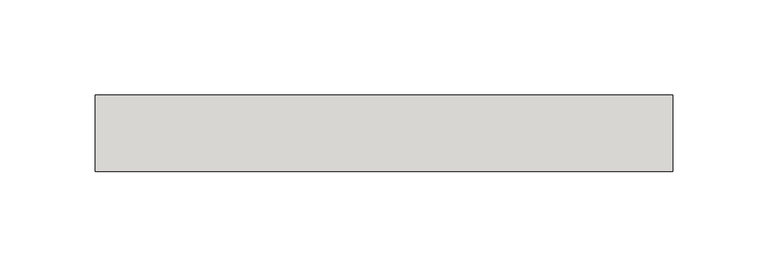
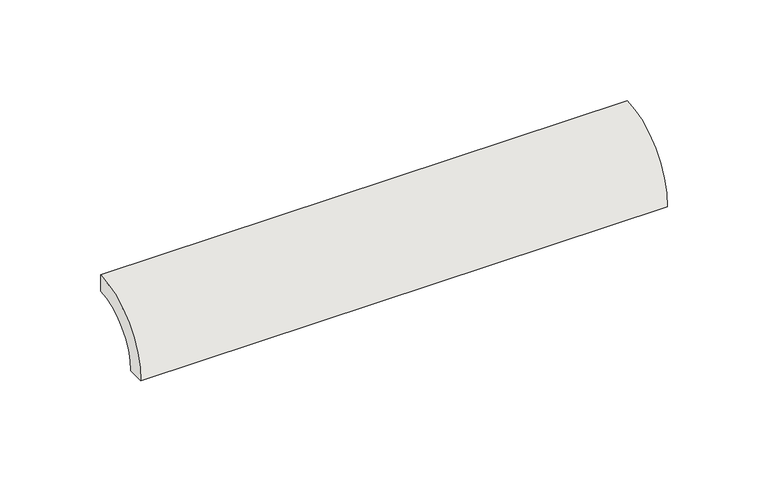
"""IFC4 building model written with IfcOpenShell, lengths in millimetres: slab geometry, ROSA GRES_138 : Pieza 138_Aqua_Marino_Anti-Slip."""

from ifc_helpers import new_model, si_unit, point, frame, frame_2d, origin, origin_2d, place, context, project, spatial, polyline, circle_curve, trimmed, segment, composite_curve, outline, extrude, source, transform, mapped, element, save


def slab_d1715345(model_context):
    return source(origin(), model_context, "Body", "SweptSolid", [
        extrude(outline(composite_curve([segment(polyline([(0.0, 40.0), (0.0, 30.0265886)]), True, "CONTINUOUS"), segment(trimmed(circle_curve(frame_2d((-0.0044453, 0.0044453)), 30.0221435), [point((0.0, 30.0265886))], [point((-30.0265886, 0.0))], True, "CARTESIAN"), True, "CONTINUOUS"), segment(polyline([(-30.0265886, 0.0), (-40.0, 0.0)]), True, "CONTINUOUS"), segment(trimmed(circle_curve(origin_2d(), 40.0), [point((-40.0, 0.0))], [point((0.0, 40.0))], False, "CARTESIAN"), True, "CONTINUOUS")], self_intersect=False)), frame((0.0, 0.0, 0.0), z_axis=(1.0, 0.0, 0.0), x_axis=(0.0, 1.0, 0.0)), (0.0, 0.0, 1.0), 302.1231919),
    ])


if __name__ == "__main__":
    model = new_model("IFC4")
    model_context = context("Model", 3, world=origin())
    ifc_project = project(units=[si_unit("LENGTHUNIT", "METRE", prefix="MILLI")], contexts=[model_context])
    site = spatial("IfcSite", under=ifc_project)
    building = spatial("IfcBuilding", under=site)
    placement = place(None, origin())
    slab_shape = slab_d1715345(model_context)
    element("IfcSlab", 1, ObjectType="ROSA GRES_138 : Pieza 138_Aqua_Marino_Anti-Slip", at=placement, inside=building, context=model_context, shape_type="MappedRepresentation", body=[
        mapped(slab_shape, transform((0.0, 0.0, 0.0), x_axis=(1.0, 0.0, 0.0), y_axis=(0.0, 1.0, 0.0), z_axis=(0.0, 0.0, 1.0))),
    ])
    save(model, "model.ifc")
